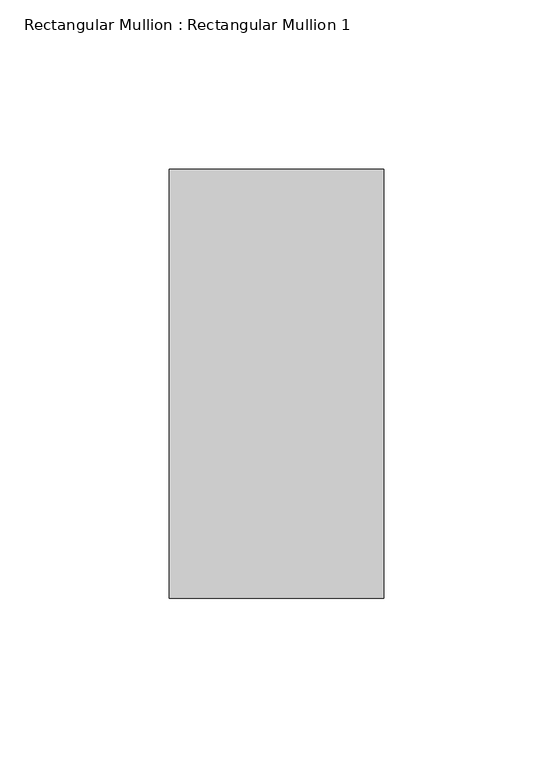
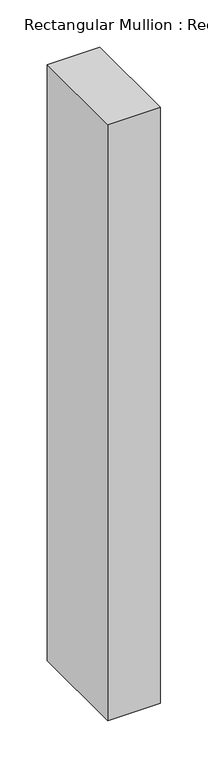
"""IFC4 building model written with IfcOpenShell, lengths in millimetres: member geometry, Rectangular Mullion : Rectangular Mullion 1."""

from ifc_helpers import new_model, si_unit, frame, origin, place, context, project, spatial, polyline, outline, extrude, source, transform, mapped, element, save


def rectangular_mullion_rectangular_mullion_1_625e80b1(model_context):
    return source(origin(), model_context, "Body", "SweptSolid", [
        extrude(outline(polyline([(31.75, 63.5), (31.75, -63.5), (-31.75, -63.5), (-31.75, 63.5), (31.75, 63.5)])), frame((0.0, 0.0, -765.7026365), z_axis=(0.0, 0.0, 1.0), x_axis=(1.0, 0.0, 0.0)), (0.0, 0.0, 1.0), 765.7026365),
    ])


if __name__ == "__main__":
    model = new_model("IFC4")
    model_context = context("Model", 3, world=origin())
    ifc_project = project(units=[si_unit("LENGTHUNIT", "METRE", prefix="MILLI")], contexts=[model_context])
    site = spatial("IfcSite", under=ifc_project)
    building = spatial("IfcBuilding", under=site)
    placement = place(None, origin())
    rectangular_mullion_rectangular_mullion_1_shape = rectangular_mullion_rectangular_mullion_1_625e80b1(model_context)
    element("IfcMember", 1, ObjectType="Rectangular Mullion : Rectangular Mullion 1", at=placement, inside=building, context=model_context, shape_type="MappedRepresentation", body=[
        mapped(rectangular_mullion_rectangular_mullion_1_shape, transform((0.0, 0.0, 0.0), x_axis=(1.0, 0.0, 0.0), y_axis=(0.0, 1.0, 0.0), z_axis=(0.0, 0.0, 1.0))),
    ])
    save(model, "model.ifc")
